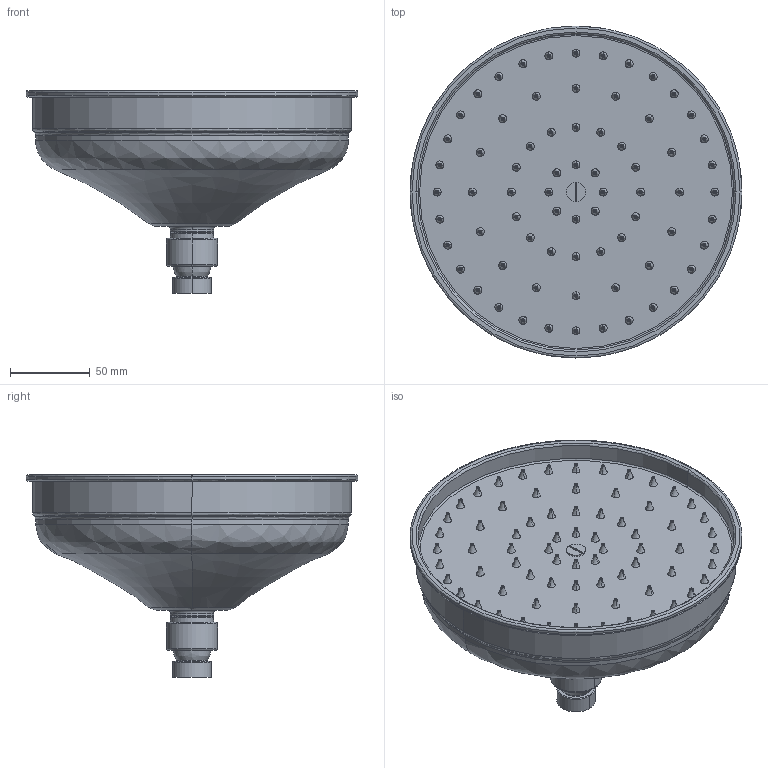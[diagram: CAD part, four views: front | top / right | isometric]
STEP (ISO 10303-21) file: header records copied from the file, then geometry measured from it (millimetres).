
FILE_DESCRIPTION(/* description */ (''),/* implementation_level */ '2;1');
FILE_NAME(/* name */ 'F2071_2',/* time_stamp */ '2025-04-04T16:10:57+02:00',/* author */ (''),/* organization */ (''),/* preprocessor_version */ 'ST-DEVELOPER v19.2',/* originating_system */ 'Rhino 8.1',/* authorisation */ '');
FILE_SCHEMA (('CONFIG_CONTROL_DESIGN'));
Length unit declared in the file: centimetre
Products named in the file (1): Document
Bounding box: 208 x 208 x 127 mm (x, y, z)
Volume: 1489905.5 mm3; surface area: 110983.8 mm2
Topology: 1 solids, 1 shells, 503 faces, 1004 edges, 658 vertices
Faces by surface type: bspline 176, cylinder 168, plane 159
Entity records: 28615 total; most frequent: CARTESIAN_POINT 17740, ORIENTED_EDGE 2008, DIRECTION 1985, AXIS2_PLACEMENT_3D 1156, EDGE_CURVE 1004, TRIMMED_CURVE 828, CIRCLE 828, EDGE_LOOP 658
